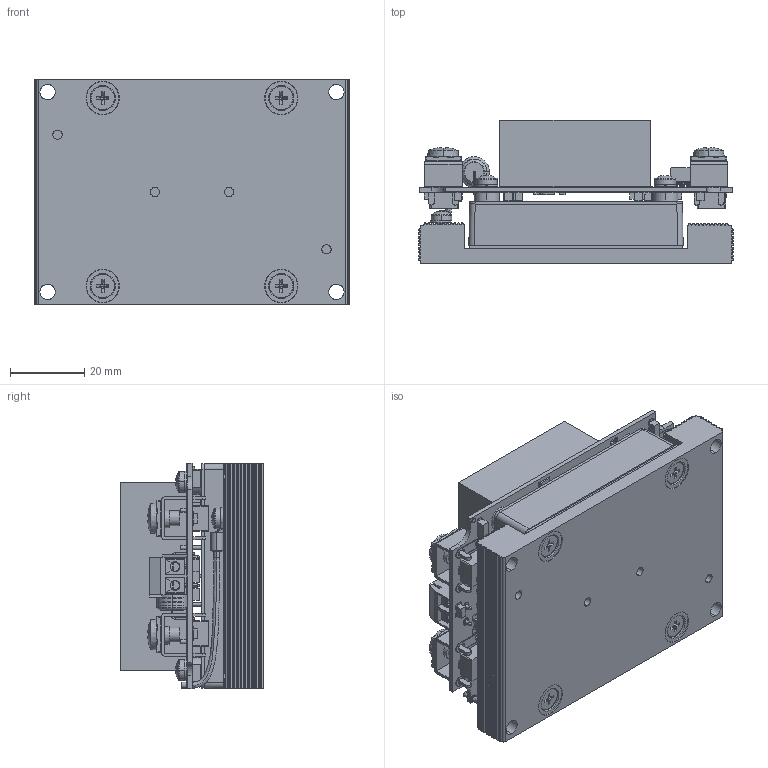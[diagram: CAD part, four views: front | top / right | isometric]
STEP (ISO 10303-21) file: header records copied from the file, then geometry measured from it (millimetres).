
FILE_DESCRIPTION (( 'STEP AP214' ), '1' );
FILE_NAME ('TEP 100 CMF.STEP', '2022-05-11T06:02:11', ( '' ), ( '' ), 'SwSTEP 2.0', 'SolidWorks 2016', '' );
FILE_SCHEMA (( 'AUTOMOTIVE_DESIGN' ));
Length unit declared in the file: millimetre
Products named in the file (1): TEP 100 CMF
Bounding box: 85 x 38.8 x 61 mm (x, y, z)
Volume: 124336.5 mm3; surface area: 64896.2 mm2
Topology: 55 solids, 55 shells, 3535 faces, 9129 edges, 5855 vertices
Faces by surface type: plane 2013, cylinder 1150, cone 193, bspline 179
Entity records: 138481 total; most frequent: CARTESIAN_POINT 26138, ORIENTED_EDGE 18144, DIRECTION 17772, EDGE_CURVE 9072, AXIS2_PLACEMENT_3D 6037, VERTEX_POINT 5855, VECTOR 5698, LINE 5698
